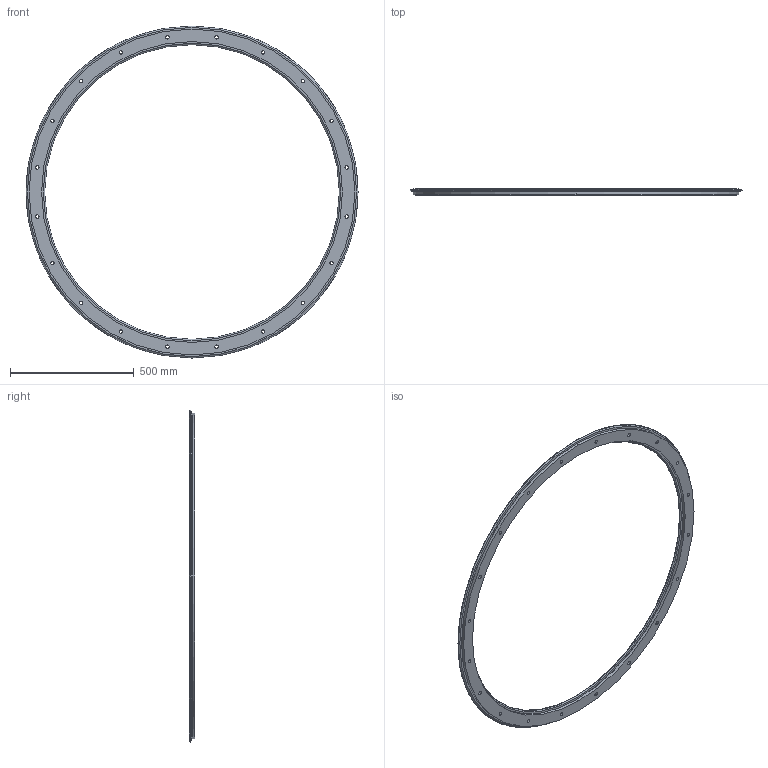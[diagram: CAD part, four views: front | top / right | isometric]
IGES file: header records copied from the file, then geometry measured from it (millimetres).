
Start section: 3D InterOp IGES (v. 2020 1.0.1), Spatial Corp. Copyright (c) 1999-2017.
Global section: file name: r76_1267_r360.igs; native system: Spatial Corp.; preprocessor: 3D InterOp ACIS/IGES; author: TraceParts; organization: TraceParts S.A.; date: 20220624.073356; units: millimetre
Bounding box: 1342.61 x 24 x 1342.61 mm (x, y, z)
Surface area: 827605.2 mm2 (no closed solid volume)
Topology: 0 solids, 0 shells, 130 faces, 600 edges, 600 vertices
Faces by surface type: revolution 104, extrusion 26
